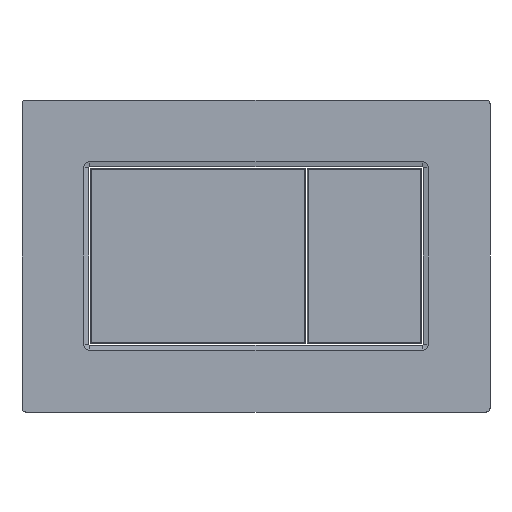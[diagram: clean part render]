
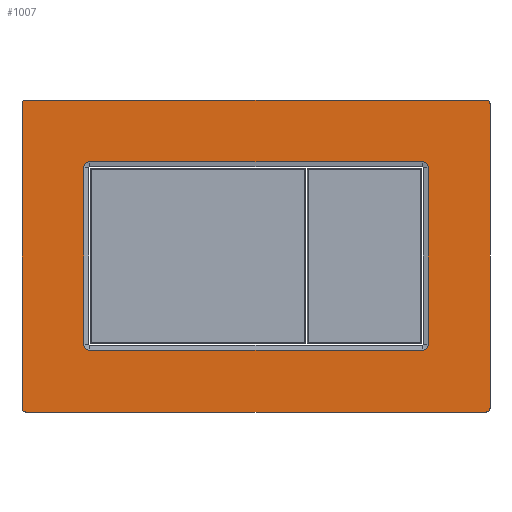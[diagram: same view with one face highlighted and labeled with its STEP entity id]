
A CAD part, front view. The second image highlights one B-rep face of the part: STEP entity #1007.
In plain terms, the highlighted planar face has unit normal (0, -1, 0).
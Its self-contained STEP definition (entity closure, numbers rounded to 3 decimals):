
#16=FACE_BOUND('',#157,.T.);
#34=CIRCLE('',#1084,3.);
#36=CIRCLE('',#1088,3.);
#38=CIRCLE('',#1092,3.);
#40=CIRCLE('',#1096,3.);
#44=CIRCLE('',#1105,2.);
#45=CIRCLE('',#1106,2.);
#46=CIRCLE('',#1107,2.);
#47=CIRCLE('',#1108,2.);
#94=FACE_OUTER_BOUND('',#156,.T.);
#156=EDGE_LOOP('',(#672,#673,#674,#675,#676,#677,#678,#679));
#157=EDGE_LOOP('',(#680,#681,#682,#683,#684,#685,#686,#687));
#209=LINE('',#1484,#309);
#214=LINE('',#1498,#314);
#218=LINE('',#1510,#318);
#222=LINE('',#1522,#322);
#231=LINE('',#1550,#331);
#232=LINE('',#1554,#332);
#233=LINE('',#1558,#333);
#234=LINE('',#1561,#334);
#309=VECTOR('',#1185,10.);
#314=VECTOR('',#1198,10.);
#318=VECTOR('',#1210,10.);
#322=VECTOR('',#1222,10.);
#331=VECTOR('',#1253,10.);
#332=VECTOR('',#1256,10.);
#333=VECTOR('',#1259,10.);
#334=VECTOR('',#1262,10.);
#409=VERTEX_POINT('',#1481);
#410=VERTEX_POINT('',#1483);
#413=VERTEX_POINT('',#1490);
#415=VERTEX_POINT('',#1496);
#417=VERTEX_POINT('',#1502);
#419=VERTEX_POINT('',#1508);
#421=VERTEX_POINT('',#1514);
#423=VERTEX_POINT('',#1520);
#429=VERTEX_POINT('',#1546);
#430=VERTEX_POINT('',#1547);
#431=VERTEX_POINT('',#1549);
#432=VERTEX_POINT('',#1551);
#433=VERTEX_POINT('',#1553);
#434=VERTEX_POINT('',#1555);
#435=VERTEX_POINT('',#1557);
#436=VERTEX_POINT('',#1559);
#489=EDGE_CURVE('',#409,#410,#209,.T.);
#493=EDGE_CURVE('',#413,#409,#34,.T.);
#496=EDGE_CURVE('',#415,#413,#214,.T.);
#499=EDGE_CURVE('',#417,#415,#36,.T.);
#502=EDGE_CURVE('',#419,#417,#218,.T.);
#505=EDGE_CURVE('',#421,#419,#38,.T.);
#508=EDGE_CURVE('',#423,#421,#222,.T.);
#510=EDGE_CURVE('',#410,#423,#40,.T.);
#521=EDGE_CURVE('',#429,#430,#44,.T.);
#522=EDGE_CURVE('',#430,#431,#231,.T.);
#523=EDGE_CURVE('',#431,#432,#45,.T.);
#524=EDGE_CURVE('',#432,#433,#232,.T.);
#525=EDGE_CURVE('',#433,#434,#46,.T.);
#526=EDGE_CURVE('',#434,#435,#233,.T.);
#527=EDGE_CURVE('',#435,#436,#47,.T.);
#528=EDGE_CURVE('',#436,#429,#234,.T.);
#672=ORIENTED_EDGE('',*,*,#521,.T.);
#673=ORIENTED_EDGE('',*,*,#522,.T.);
#674=ORIENTED_EDGE('',*,*,#523,.T.);
#675=ORIENTED_EDGE('',*,*,#524,.T.);
#676=ORIENTED_EDGE('',*,*,#525,.T.);
#677=ORIENTED_EDGE('',*,*,#526,.T.);
#678=ORIENTED_EDGE('',*,*,#527,.T.);
#679=ORIENTED_EDGE('',*,*,#528,.T.);
#680=ORIENTED_EDGE('',*,*,#489,.F.);
#681=ORIENTED_EDGE('',*,*,#493,.F.);
#682=ORIENTED_EDGE('',*,*,#496,.F.);
#683=ORIENTED_EDGE('',*,*,#499,.F.);
#684=ORIENTED_EDGE('',*,*,#502,.F.);
#685=ORIENTED_EDGE('',*,*,#505,.F.);
#686=ORIENTED_EDGE('',*,*,#508,.F.);
#687=ORIENTED_EDGE('',*,*,#510,.F.);
#902=PLANE('',#1104);
#1007=ADVANCED_FACE('',(#94,#16),#902,.F.);
#1084=AXIS2_PLACEMENT_3D('',#1492,#1191,#1192);
#1088=AXIS2_PLACEMENT_3D('',#1504,#1203,#1204);
#1092=AXIS2_PLACEMENT_3D('',#1516,#1215,#1216);
#1096=AXIS2_PLACEMENT_3D('',#1525,#1226,#1227);
#1104=AXIS2_PLACEMENT_3D('',#1545,#1249,#1250);
#1105=AXIS2_PLACEMENT_3D('',#1548,#1251,#1252);
#1106=AXIS2_PLACEMENT_3D('',#1552,#1254,#1255);
#1107=AXIS2_PLACEMENT_3D('',#1556,#1257,#1258);
#1108=AXIS2_PLACEMENT_3D('',#1560,#1260,#1261);
#1185=DIRECTION('',(-1.,0.,0.));
#1191=DIRECTION('center_axis',(0.,-1.,0.));
#1192=DIRECTION('ref_axis',(0.,0.,1.));
#1198=DIRECTION('',(0.,0.,1.));
#1203=DIRECTION('center_axis',(0.,-1.,0.));
#1204=DIRECTION('ref_axis',(1.,0.,0.));
#1210=DIRECTION('',(1.,0.,0.));
#1215=DIRECTION('center_axis',(0.,-1.,0.));
#1216=DIRECTION('ref_axis',(0.,0.,-1.));
#1222=DIRECTION('',(0.,0.,-1.));
#1226=DIRECTION('center_axis',(0.,-1.,0.));
#1227=DIRECTION('ref_axis',(-1.,0.,0.));
#1249=DIRECTION('center_axis',(0.,1.,0.));
#1250=DIRECTION('ref_axis',(0.,0.,1.));
#1251=DIRECTION('center_axis',(0.,-1.,0.));
#1252=DIRECTION('ref_axis',(0.,0.,1.));
#1253=DIRECTION('',(-1.,0.,0.));
#1254=DIRECTION('center_axis',(0.,-1.,0.));
#1255=DIRECTION('ref_axis',(-1.,0.,0.));
#1256=DIRECTION('',(0.,0.,-1.));
#1257=DIRECTION('center_axis',(0.,-1.,0.));
#1258=DIRECTION('ref_axis',(0.,0.,-1.));
#1259=DIRECTION('',(1.,0.,0.));
#1260=DIRECTION('center_axis',(0.,-1.,0.));
#1261=DIRECTION('ref_axis',(1.,0.,0.));
#1262=DIRECTION('',(0.,0.,1.));
#1481=CARTESIAN_POINT('',(87.5,-12.,49.5));
#1483=CARTESIAN_POINT('',(-87.5,-12.,49.5));
#1484=CARTESIAN_POINT('',(-43.75,-12.,49.5));
#1490=CARTESIAN_POINT('',(90.5,-12.,46.5));
#1492=CARTESIAN_POINT('Origin',(87.5,-12.,46.5));
#1496=CARTESIAN_POINT('',(90.5,-12.,-46.5));
#1498=CARTESIAN_POINT('',(90.5,-12.,23.25));
#1502=CARTESIAN_POINT('',(87.5,-12.,-49.5));
#1504=CARTESIAN_POINT('Origin',(87.5,-12.,-46.5));
#1508=CARTESIAN_POINT('',(-87.5,-12.,-49.5));
#1510=CARTESIAN_POINT('',(43.75,-12.,-49.5));
#1514=CARTESIAN_POINT('',(-90.5,-12.,-46.5));
#1516=CARTESIAN_POINT('Origin',(-87.5,-12.,-46.5));
#1520=CARTESIAN_POINT('',(-90.5,-12.,46.5));
#1522=CARTESIAN_POINT('',(-90.5,-12.,-23.25));
#1525=CARTESIAN_POINT('Origin',(-87.5,-12.,46.5));
#1545=CARTESIAN_POINT('Origin',(0.,-12.,0.));
#1546=CARTESIAN_POINT('',(123.,-12.,80.));
#1547=CARTESIAN_POINT('',(121.,-12.,82.));
#1548=CARTESIAN_POINT('Origin',(121.,-12.,80.));
#1549=CARTESIAN_POINT('',(-121.,-12.,82.));
#1550=CARTESIAN_POINT('',(-121.,-12.,82.));
#1551=CARTESIAN_POINT('',(-123.,-12.,80.));
#1552=CARTESIAN_POINT('Origin',(-121.,-12.,80.));
#1553=CARTESIAN_POINT('',(-123.,-12.,-80.));
#1554=CARTESIAN_POINT('',(-123.,-12.,-80.));
#1555=CARTESIAN_POINT('',(-121.,-12.,-82.));
#1556=CARTESIAN_POINT('Origin',(-121.,-12.,-80.));
#1557=CARTESIAN_POINT('',(121.,-12.,-82.));
#1558=CARTESIAN_POINT('',(121.,-12.,-82.));
#1559=CARTESIAN_POINT('',(123.,-12.,-80.));
#1560=CARTESIAN_POINT('Origin',(121.,-12.,-80.));
#1561=CARTESIAN_POINT('',(123.,-12.,80.));
